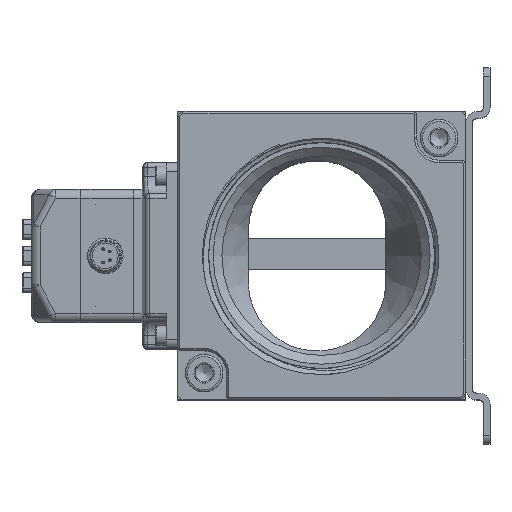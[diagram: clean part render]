
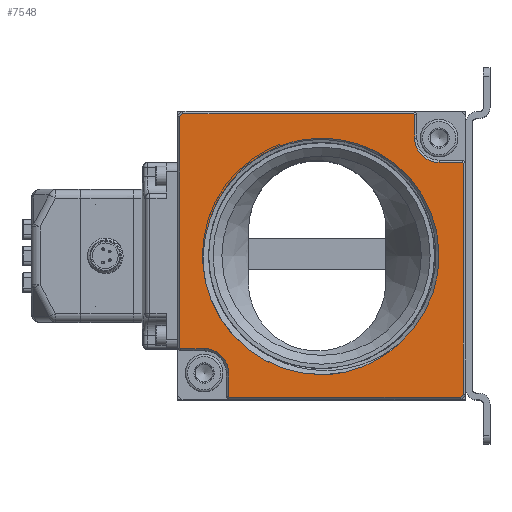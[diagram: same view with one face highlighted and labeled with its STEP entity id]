
A CAD part, top view. The second image highlights one B-rep face of the part: STEP entity #7548.
In plain terms, the highlighted planar face has unit normal (0, 0, 1).
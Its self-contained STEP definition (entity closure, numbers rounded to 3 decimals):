
#1240=B_SPLINE_CURVE_WITH_KNOTS('',3,(#36285,#36286,#36287,#36288),
 .UNSPECIFIED.,.F.,.F.,(4,4),(0.,1.),.UNSPECIFIED.);
#1241=B_SPLINE_CURVE_WITH_KNOTS('',3,(#36292,#36293,#36294,#36295),
 .UNSPECIFIED.,.F.,.F.,(4,4),(0.,1.),.UNSPECIFIED.);
#2865=LINE('',#35437,#4878);
#2869=LINE('',#35449,#4882);
#2875=LINE('',#35462,#4888);
#2879=LINE('',#35474,#4892);
#2882=LINE('',#35480,#4895);
#2884=LINE('',#35485,#4897);
#2886=LINE('',#35488,#4899);
#2897=LINE('',#35512,#4910);
#2907=LINE('',#36197,#4920);
#2912=LINE('',#36207,#4925);
#2915=LINE('',#36213,#4928);
#2917=LINE('',#36216,#4930);
#2925=LINE('',#36234,#4938);
#2930=LINE('',#36244,#4943);
#4878=VECTOR('',#28437,1.);
#4882=VECTOR('',#28449,1.);
#4888=VECTOR('',#28457,1.);
#4892=VECTOR('',#28469,1.);
#4895=VECTOR('',#28474,1.);
#4897=VECTOR('',#28478,1.);
#4899=VECTOR('',#28482,1.);
#4910=VECTOR('',#28503,1.);
#4920=VECTOR('',#28527,1.);
#4925=VECTOR('',#28536,1.);
#4928=VECTOR('',#28543,1.);
#4930=VECTOR('',#28547,1.);
#4938=VECTOR('',#28563,1.);
#4943=VECTOR('',#28572,1.);
#7548=ADVANCED_FACE('',(#9891,#9892),#9039,.F.);
#9039=PLANE('',#25974);
#9891=FACE_BOUND('',#10636,.T.);
#9892=FACE_BOUND('',#10637,.T.);
#10636=EDGE_LOOP('',(#12652,#12653,#12654,#12655,#12656,#12657,#12658,#12659,
#12660,#12661,#12662,#12663,#12664,#12665,#12666,#12667));
#10637=EDGE_LOOP('',(#12668,#12669,#12670,#12671));
#12652=ORIENTED_EDGE('',*,*,#21588,.T.);
#12653=ORIENTED_EDGE('',*,*,#21585,.T.);
#12654=ORIENTED_EDGE('',*,*,#21580,.T.);
#12655=ORIENTED_EDGE('',*,*,#21550,.T.);
#12656=ORIENTED_EDGE('',*,*,#21547,.T.);
#12657=ORIENTED_EDGE('',*,*,#21544,.T.);
#12658=ORIENTED_EDGE('',*,*,#21541,.T.);
#12659=ORIENTED_EDGE('',*,*,#21566,.T.);
#12660=ORIENTED_EDGE('',*,*,#21604,.T.);
#12661=ORIENTED_EDGE('',*,*,#21599,.T.);
#12662=ORIENTED_EDGE('',*,*,#21590,.T.);
#12663=ORIENTED_EDGE('',*,*,#21554,.T.);
#12664=ORIENTED_EDGE('',*,*,#21535,.T.);
#12665=ORIENTED_EDGE('',*,*,#21532,.T.);
#12666=ORIENTED_EDGE('',*,*,#21529,.T.);
#12667=ORIENTED_EDGE('',*,*,#21552,.T.);
#12668=ORIENTED_EDGE('',*,*,#21622,.F.);
#12669=ORIENTED_EDGE('',*,*,#21623,.T.);
#12670=ORIENTED_EDGE('',*,*,#21624,.F.);
#12671=ORIENTED_EDGE('',*,*,#21574,.F.);
#19274=VERTEX_POINT('',#35436);
#19275=VERTEX_POINT('',#35438);
#19277=VERTEX_POINT('',#35444);
#19279=VERTEX_POINT('',#35450);
#19281=VERTEX_POINT('',#35456);
#19284=VERTEX_POINT('',#35461);
#19285=VERTEX_POINT('',#35465);
#19287=VERTEX_POINT('',#35471);
#19289=VERTEX_POINT('',#35477);
#19292=VERTEX_POINT('',#35484);
#19293=VERTEX_POINT('',#35489);
#19300=VERTEX_POINT('',#35511);
#19305=VERTEX_POINT('',#35529);
#19306=VERTEX_POINT('',#35530);
#19309=VERTEX_POINT('',#36194);
#19312=VERTEX_POINT('',#36204);
#19315=VERTEX_POINT('',#36217);
#19321=VERTEX_POINT('',#36235);
#19331=VERTEX_POINT('',#36289);
#19332=VERTEX_POINT('',#36291);
#21529=EDGE_CURVE('',#19275,#19274,#2865,.T.);
#21532=EDGE_CURVE('',#19277,#19275,#24926,.T.);
#21535=EDGE_CURVE('',#19279,#19277,#2869,.T.);
#21541=EDGE_CURVE('',#19281,#19284,#2875,.T.);
#21544=EDGE_CURVE('',#19285,#19281,#24929,.T.);
#21547=EDGE_CURVE('',#19287,#19285,#2879,.T.);
#21550=EDGE_CURVE('',#19289,#19287,#2882,.T.);
#21552=EDGE_CURVE('',#19274,#19292,#2884,.T.);
#21554=EDGE_CURVE('',#19293,#19279,#2886,.T.);
#21566=EDGE_CURVE('',#19284,#19300,#2897,.T.);
#21574=EDGE_CURVE('',#19305,#19306,#24932,.T.);
#21580=EDGE_CURVE('',#19309,#19289,#2907,.T.);
#21585=EDGE_CURVE('',#19312,#19309,#2912,.T.);
#21588=EDGE_CURVE('',#19292,#19312,#2915,.T.);
#21590=EDGE_CURVE('',#19315,#19293,#2917,.T.);
#21599=EDGE_CURVE('',#19321,#19315,#2925,.T.);
#21604=EDGE_CURVE('',#19300,#19321,#2930,.T.);
#21622=EDGE_CURVE('',#19331,#19305,#1240,.T.);
#21623=EDGE_CURVE('',#19331,#19332,#24939,.T.);
#21624=EDGE_CURVE('',#19306,#19332,#1241,.T.);
#24926=CIRCLE('',#25918,5.5);
#24929=CIRCLE('',#25924,5.5);
#24932=CIRCLE('',#25939,26.873);
#24939=CIRCLE('',#25973,26.5);
#25918=AXIS2_PLACEMENT_3D('',#35443,#28442,#28443);
#25924=AXIS2_PLACEMENT_3D('',#35468,#28463,#28464);
#25939=AXIS2_PLACEMENT_3D('',#35528,#28520,#28521);
#25973=AXIS2_PLACEMENT_3D('',#36290,#28627,#28628);
#25974=AXIS2_PLACEMENT_3D('',#36296,#28629,#28630);
#28437=DIRECTION('',(0.,1.,0.));
#28442=DIRECTION('',(0.,0.,-1.));
#28443=DIRECTION('',(-1.,0.,0.));
#28449=DIRECTION('',(-1.,0.,0.));
#28457=DIRECTION('',(0.,-1.,0.));
#28463=DIRECTION('',(0.,0.,-1.));
#28464=DIRECTION('',(-1.,0.,0.));
#28469=DIRECTION('',(1.,-0.002,0.));
#28474=DIRECTION('',(0.707,-0.708,0.));
#28478=DIRECTION('',(-0.707,0.707,0.));
#28482=DIRECTION('',(-0.707,0.707,0.));
#28503=DIRECTION('',(0.707,-0.707,0.));
#28520=DIRECTION('',(0.,0.,1.));
#28521=DIRECTION('',(-1.,0.,0.));
#28527=DIRECTION('',(0.,-1.,0.));
#28536=DIRECTION('',(-0.707,-0.707,0.));
#28543=DIRECTION('',(-1.,0.,0.));
#28547=DIRECTION('',(0.,1.,0.));
#28563=DIRECTION('',(0.707,0.707,0.));
#28572=DIRECTION('',(1.,0.,0.));
#28627=DIRECTION('',(0.,0.,-1.));
#28628=DIRECTION('',(-1.,0.,0.));
#28629=DIRECTION('',(0.,0.,-1.));
#28630=DIRECTION('',(1.,0.,0.));
#35436=CARTESIAN_POINT('',(50.5,59.293,22.));
#35437=CARTESIAN_POINT('',(50.5,59.5,22.));
#35438=CARTESIAN_POINT('',(50.5,54.,22.));
#35443=CARTESIAN_POINT('',(56.,54.,22.));
#35444=CARTESIAN_POINT('',(56.,48.5,22.));
#35449=CARTESIAN_POINT('',(56.,48.5,22.));
#35450=CARTESIAN_POINT('',(61.293,48.5,22.));
#35456=CARTESIAN_POINT('',(8.5,1.,22.));
#35461=CARTESIAN_POINT('',(8.5,-4.293,22.));
#35462=CARTESIAN_POINT('',(8.5,-4.5,22.));
#35465=CARTESIAN_POINT('',(3.009,6.5,22.));
#35468=CARTESIAN_POINT('',(3.,1.,22.));
#35471=CARTESIAN_POINT('',(-2.292,6.508,22.));
#35474=CARTESIAN_POINT('',(3.009,6.5,22.));
#35477=CARTESIAN_POINT('',(-2.5,6.716,22.));
#35480=CARTESIAN_POINT('',(-2.146,6.362,22.));
#35484=CARTESIAN_POINT('',(50.293,59.5,22.));
#35485=CARTESIAN_POINT('',(50.146,59.646,22.));
#35488=CARTESIAN_POINT('',(61.146,48.646,22.));
#35489=CARTESIAN_POINT('',(61.5,48.293,22.));
#35511=CARTESIAN_POINT('',(8.707,-4.5,22.));
#35512=CARTESIAN_POINT('',(8.854,-4.646,22.));
#35528=CARTESIAN_POINT('',(29.5,27.5,22.));
#35529=CARTESIAN_POINT('',(3.2,21.982,22.));
#35530=CARTESIAN_POINT('',(34.724,1.14,22.));
#36194=CARTESIAN_POINT('',(-2.5,58.793,22.));
#36197=CARTESIAN_POINT('',(-2.5,6.509,22.));
#36204=CARTESIAN_POINT('',(-1.793,59.5,22.));
#36207=CARTESIAN_POINT('',(-2.646,58.646,22.));
#36213=CARTESIAN_POINT('',(-2.,59.5,22.));
#36216=CARTESIAN_POINT('',(61.5,48.5,22.));
#36217=CARTESIAN_POINT('',(61.5,-3.793,22.));
#36234=CARTESIAN_POINT('',(61.646,-3.646,22.));
#36235=CARTESIAN_POINT('',(60.793,-4.5,22.));
#36244=CARTESIAN_POINT('',(61.,-4.5,22.));
#36285=CARTESIAN_POINT('',(4.371,35.915,22.));
#36286=CARTESIAN_POINT('',(2.756,31.48,22.));
#36287=CARTESIAN_POINT('',(2.348,26.651,22.));
#36288=CARTESIAN_POINT('',(3.2,21.982,22.));
#36289=CARTESIAN_POINT('',(4.371,35.915,22.));
#36290=CARTESIAN_POINT('',(29.5,27.5,22.));
#36291=CARTESIAN_POINT('',(47.091,7.68,22.));
#36292=CARTESIAN_POINT('',(34.724,1.14,22.));
#36293=CARTESIAN_POINT('',(39.352,2.184,22.));
#36294=CARTESIAN_POINT('',(43.651,4.463,22.));
#36295=CARTESIAN_POINT('',(47.091,7.68,22.));
#36296=CARTESIAN_POINT('',(29.5,27.5,22.));
